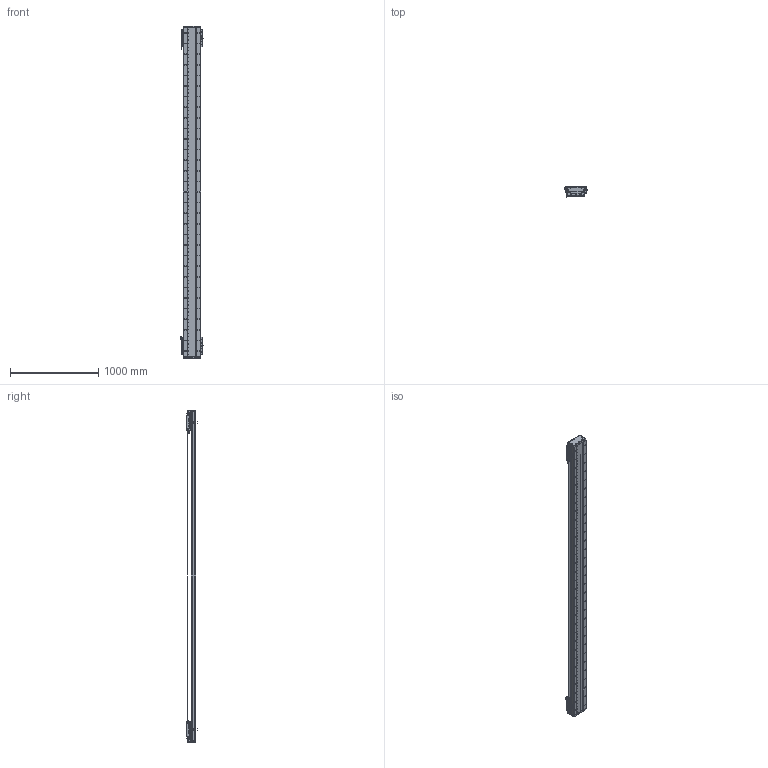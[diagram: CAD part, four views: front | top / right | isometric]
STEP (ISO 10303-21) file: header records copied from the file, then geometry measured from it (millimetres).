
FILE_DESCRIPTION (( 'STEP AP214' ), '1' );
FILE_NAME ('DA-C195-2-C2-T3260-C010-0.2 眻盄萇儂.STEP', '2025-08-14T02:17:13', ( '' ), ( '' ), 'SwSTEP 2.0', 'SolidWorks 2019', '' );
FILE_SCHEMA (( 'AUTOMOTIVE_DESIGN' ));
Length unit declared in the file: millimetre
Products named in the file (19): DA165-GYP-00 光电感应片(默认)-1; DA-C195-2-C2-T3260-C010-0.2 眻盄萇儂; DA95-HXJ-00 遣喳砎蝶-1; IU-CU195-L 菁釱絳寢-1; 葩璃 DA95-GT-T-00-1; DKW-KGZ-ZJ-00 中间光电开关支架-1; IU-CU195-L-00 菁釱(L3720); PM-T45ㄗ侂狟ㄘ-1; DKW168-HXJ-ZJ-00 笢潔滅袉砎蝶-1; LMT黍杅芛-1; DA195詩湍裔啣-1; CU195-C2賑輸-俋楷-1; DA-C195-GD-DB-H-00 傷啣-1; DA195詩湍郪璃-1; PM-Y65嫖萇羲壽郪璃-1; MS200 棠掑喜S315-T1740-1; DA195詩湍嶺輸-1; DA195詩湍菜輸-1; DKW-GYP-ZJ-00 笢潔嫖萇覜茼え-1
Assembly tree (37 placements, depth 3):
  DA-C195-2-C2-T3260-C010-0.2 眻盄萇儂
    DA195詩湍郪璃-1
      DA195詩湍菜輸-1  x2
      DA195詩湍裔啣-1
      DA195詩湍嶺輸-1  x2
      DA95-HXJ-00 遣喳砎蝶-1  x8
      DA-C195-GD-DB-H-00 傷啣-1  x2
    IU-CU195-L 菁釱絳寢-1
      IU-CU195-L-00 菁釱(L3720)
      葩璃 DA95-GT-T-00-1  x4
    LMT黍杅芛-1  x2
    MS200 棠掑喜S315-T1740-1
    PM-T45ㄗ侂狟ㄘ-1  x4
    DA165-GYP-00 光电感应片(默认)-1  x2
    PM-Y65嫖萇羲壽郪璃-1
    DKW168-HXJ-ZJ-00 笢潔滅袉砎蝶-1
    DKW-GYP-ZJ-00 笢潔嫖萇覜茼え-1
    DKW-KGZ-ZJ-00 中间光电开关支架-1
    CU195-C2賑輸-俋楷-1  x2
Bounding box: 258.2 x 115.45 x 3760 mm (x, y, z)
Volume: 22000208.3 mm3; surface area: 6490864.9 mm2
Topology: 114 solids, 242 shells, 7475 faces, 20375 edges, 12753 vertices
Faces by surface type: cylinder 3748, plane 2643, cone 916, torus 88, sphere 72, bspline 8
Entity records: 182955 total; most frequent: CARTESIAN_POINT 49983, ORIENTED_EDGE 26582, DIRECTION 24690, EDGE_CURVE 13291, AXIS2_PLACEMENT_3D 9141, VERTEX_POINT 8640, VECTOR 6408, LINE 6408
